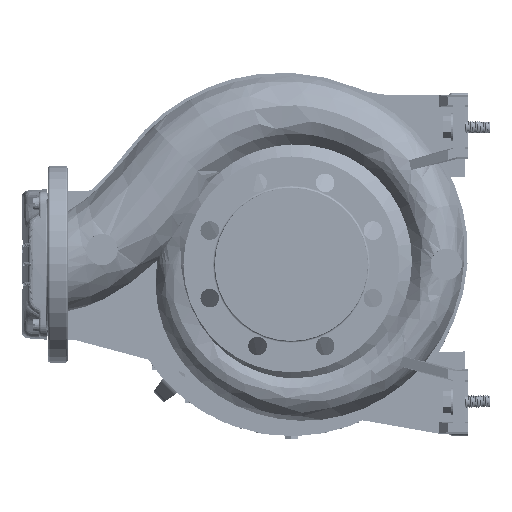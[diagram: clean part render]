
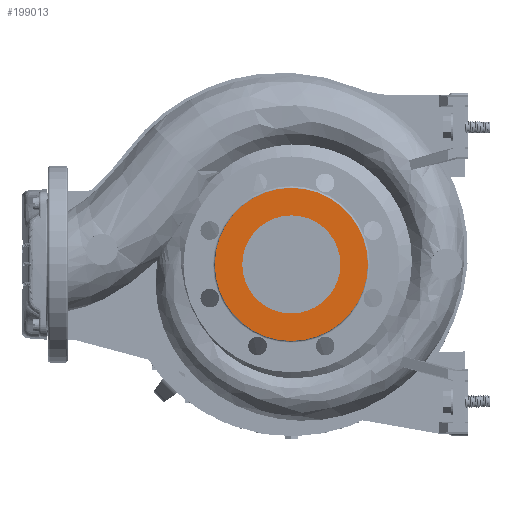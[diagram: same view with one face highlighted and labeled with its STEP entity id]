
A CAD part, left-side view. The second image highlights one B-rep face of the part: STEP entity #199013.
In plain terms, the highlighted planar face has unit normal (-1, 0, 0).
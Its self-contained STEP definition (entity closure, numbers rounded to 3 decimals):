
#9457 = EDGE_LOOP ( 'NONE', ( #51363, #172692 ) ) ;
#12633 = DIRECTION ( 'NONE',  ( 0., 0., -1. ) ) ;
#16212 = CIRCLE ( 'NONE', #140152, 50. ) ;
#17026 = CARTESIAN_POINT ( 'NONE',  ( -125., 0., 0. ) ) ;
#17959 = CIRCLE ( 'NONE', #193014, 78. ) ;
#18382 = CARTESIAN_POINT ( 'NONE',  ( -125., 0., 50. ) ) ;
#30443 = AXIS2_PLACEMENT_3D ( 'NONE', #84635, #120072, #49239 ) ;
#34267 = DIRECTION ( 'NONE',  ( 1., 0., 0. ) ) ;
#42236 = CARTESIAN_POINT ( 'NONE',  ( -125., 0., 0. ) ) ;
#44119 = AXIS2_PLACEMENT_3D ( 'NONE', #170181, #34267, #12633 ) ;
#49239 = DIRECTION ( 'NONE',  ( 0., 0., 1. ) ) ;
#51363 = ORIENTED_EDGE ( 'NONE', *, *, #116199, .F. ) ;
#57972 = VERTEX_POINT ( 'NONE', #149165 ) ;
#73491 = CIRCLE ( 'NONE', #201263, 78. ) ;
#84635 = CARTESIAN_POINT ( 'NONE',  ( -125., 0., 0. ) ) ;
#93060 = EDGE_LOOP ( 'NONE', ( #131826, #124863 ) ) ;
#105138 = CARTESIAN_POINT ( 'NONE',  ( -125., 0., -78. ) ) ;
#105938 = CARTESIAN_POINT ( 'NONE',  ( -125., 0., 0. ) ) ;
#106598 = DIRECTION ( 'NONE',  ( 0., 0., 1. ) ) ;
#116199 = EDGE_CURVE ( 'NONE', #119133, #57972, #16212, .T. ) ;
#119133 = VERTEX_POINT ( 'NONE', #18382 ) ;
#120072 = DIRECTION ( 'NONE',  ( -1., 0., 0. ) ) ;
#121011 = DIRECTION ( 'NONE',  ( -1., 0., 0. ) ) ;
#124188 = CARTESIAN_POINT ( 'NONE',  ( -125., 0., 78. ) ) ;
#124863 = ORIENTED_EDGE ( 'NONE', *, *, #199547, .T. ) ;
#130552 = VERTEX_POINT ( 'NONE', #105138 ) ;
#131826 = ORIENTED_EDGE ( 'NONE', *, *, #195889, .T. ) ;
#139062 = DIRECTION ( 'NONE',  ( 0., 0., 1. ) ) ;
#140152 = AXIS2_PLACEMENT_3D ( 'NONE', #17026, #121011, #191715 ) ;
#149165 = CARTESIAN_POINT ( 'NONE',  ( -125., 0., -50. ) ) ;
#154976 = VERTEX_POINT ( 'NONE', #124188 ) ;
#165540 = DIRECTION ( 'NONE',  ( -1., 0., 0. ) ) ;
#169084 = PLANE ( 'NONE',  #44119 ) ;
#170171 = EDGE_CURVE ( 'NONE', #57972, #119133, #172740, .T. ) ;
#170181 = CARTESIAN_POINT ( 'NONE',  ( -125., 0., 0. ) ) ;
#172692 = ORIENTED_EDGE ( 'NONE', *, *, #170171, .F. ) ;
#172740 = CIRCLE ( 'NONE', #30443, 50. ) ;
#189564 = FACE_OUTER_BOUND ( 'NONE', #93060, .T. ) ;
#191715 = DIRECTION ( 'NONE',  ( 0., 0., 1. ) ) ;
#191813 = FACE_BOUND ( 'NONE', #9457, .T. ) ;
#193014 = AXIS2_PLACEMENT_3D ( 'NONE', #42236, #165540, #106598 ) ;
#194946 = DIRECTION ( 'NONE',  ( -1., 0., 0. ) ) ;
#195889 = EDGE_CURVE ( 'NONE', #154976, #130552, #17959, .T. ) ;
#199013 = ADVANCED_FACE ( 'NONE', ( #191813, #189564 ), #169084, .F. ) ;
#199547 = EDGE_CURVE ( 'NONE', #130552, #154976, #73491, .T. ) ;
#201263 = AXIS2_PLACEMENT_3D ( 'NONE', #105938, #194946, #139062 ) ;
